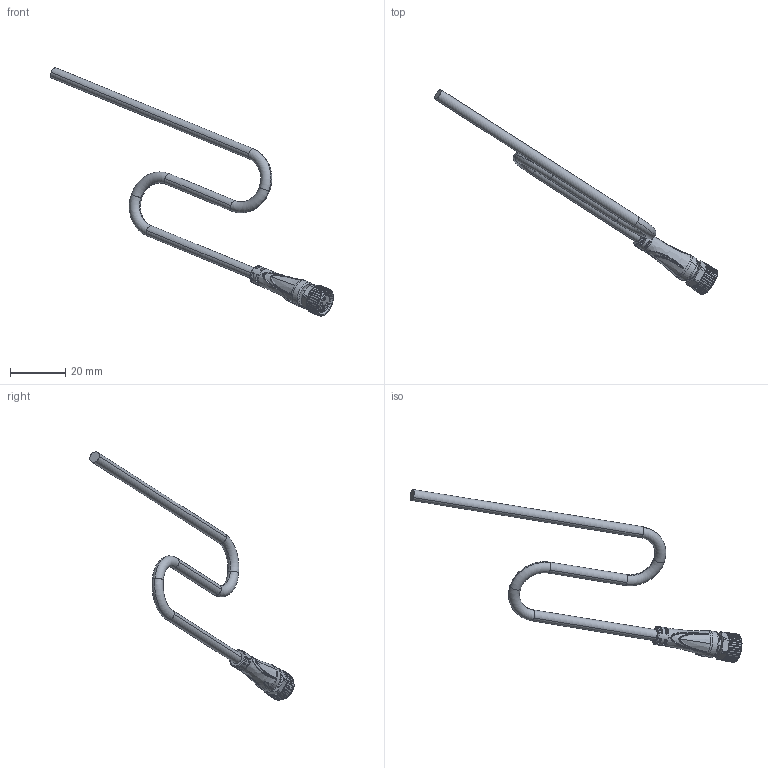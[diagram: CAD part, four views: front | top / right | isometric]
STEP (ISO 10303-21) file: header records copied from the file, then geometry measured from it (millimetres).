
FILE_DESCRIPTION (( 'STEP AP214' ), '1' );
FILE_NAME ('M8眻芛4P譫傷.STEP', '2025-01-03T03:48:21', ( 'Windows User' ), ( 'P R C' ), 'SwSTEP 2.0', 'SolidWorks 2023', '' );
FILE_SCHEMA (( 'AUTOMOTIVE_DESIGN' ));
Length unit declared in the file: millimetre
Products named in the file (7): SD1100822-M8滚花螺母（内螺纹对边9）-B0 带退刀槽; M8-0°包胶_φ4; M8直头4P母端; SD1705295-M8-4P母端插座-A0; SD1705297-M8母端插针-A0; 导线_φ4.0; 密封圈
Assembly tree (9 placements, depth 2):
  M8直头4P母端
    M8-0°包胶_φ4
    SD1100822-M8滚花螺母（内螺纹对边9）-B0 带退刀槽
    SD1705297-M8母端插针-A0  x4
    导线_φ4.0
    密封圈
    SD1705295-M8-4P母端插座-A0
Bounding box: 102.44 x 73.98 x 89.94 mm (x, y, z)
Volume: 4492.7 mm3; surface area: 5638.7 mm2
Topology: 9 solids, 9 shells, 1656 faces, 4429 edges, 2770 vertices
Faces by surface type: plane 706, cylinder 453, cone 231, bspline 180, torus 86
Entity records: 39102 total; most frequent: CARTESIAN_POINT 18174, ORIENTED_EDGE 4772, DIRECTION 3817, EDGE_CURVE 2386, VERTEX_POINT 1516, AXIS2_PLACEMENT_3D 1441, LINE 935, VECTOR 935
